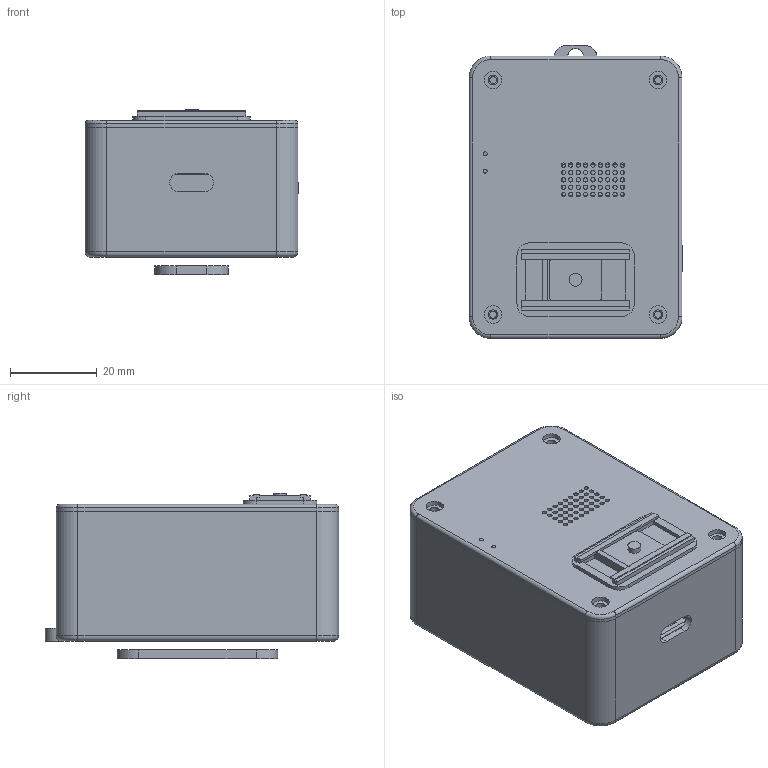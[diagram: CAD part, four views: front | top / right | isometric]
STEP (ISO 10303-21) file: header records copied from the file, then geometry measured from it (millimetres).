
FILE_DESCRIPTION(('Open CASCADE Model'),'2;1');
FILE_NAME('Open CASCADE Shape Model','2026-09-08T13:39:14',('Author'),( 'Open CASCADE'),'Open CASCADE STEP processor 7.9','Open CASCADE 7.9' ,'Unknown');
FILE_SCHEMA(('AUTOMOTIVE_DESIGN { 1 0 10303 214 1 1 1 1 }'));
Length unit declared in the file: millimetre
Products named in the file (1): COMPOUND
Bounding box: 49.2 x 67.5 x 38 mm (x, y, z)
Volume: 28122.5 mm3; surface area: 38910.5 mm2
Topology: 10 solids, 10 shells, 408 faces, 1036 edges, 685 vertices
Faces by surface type: plane 233, cylinder 167, torus 8
Full cylindrical faces by diameter (mm): 0.9 x4, 1 x45, 1.3 x1, 1.4 x4, 1.6 x4, 1.8 x2, 2.2 x4, 2.4 x2, 3 x1, 4 x6, 4.6 x8, 6.3 x4, 9 x1
Entity records: 26138 total; most frequent: CARTESIAN_POINT 5258, DIRECTION 3812, ORIENTED_EDGE 2072, PCURVE 2072, DEFINITIONAL_REPRESENTATION 2072, LINE 2016, VECTOR 2016, EDGE_CURVE 1036
